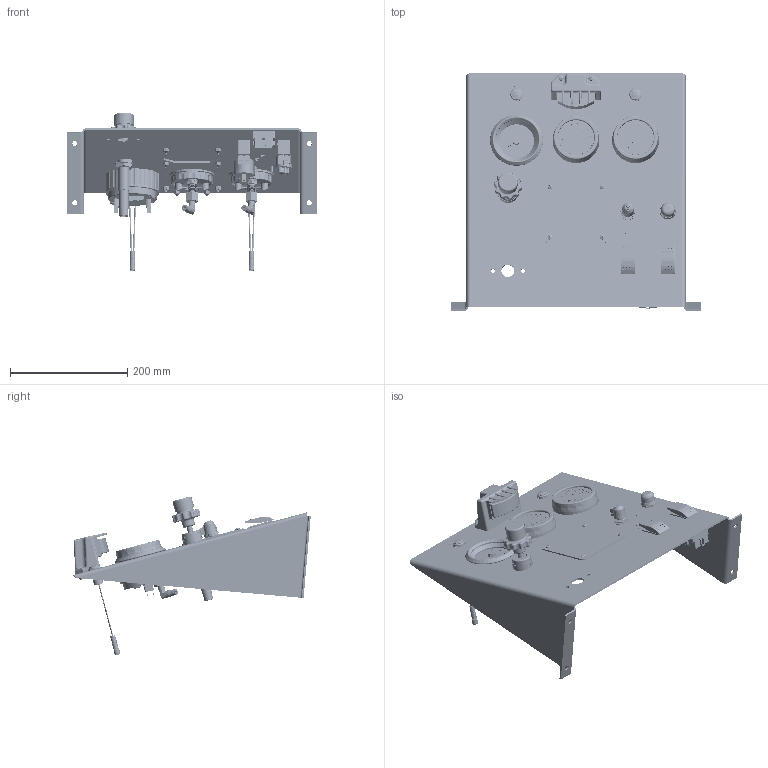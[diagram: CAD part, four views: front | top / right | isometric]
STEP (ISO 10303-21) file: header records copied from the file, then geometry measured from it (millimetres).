
FILE_DESCRIPTION (( 'STEP AP214' ), '1' );
FILE_NAME ('HPX-KBD PPK PANEL ASSEMBLY.STEP', '2017-10-30T11:55:59', ( '' ), ( '' ), 'SwSTEP 2.0', 'SolidWorks 2016', '' );
FILE_SCHEMA (( 'AUTOMOTIVE_DESIGN' ));
Length unit declared in the file: millimetre
Products named in the file (1): HPX-KBD PPK PANEL ASSEMBLY
Bounding box: 425.45 x 405.54 x 271.43 mm (x, y, z)
Surface area: 625725.1 mm2 (no closed solid volume)
Topology: 0 solids, 237 shells, 2915 faces, 12088 edges, 9016 vertices
Faces by surface type: plane 1110, cylinder 900, torus 401, cone 227, bspline 194, sphere 83
Entity records: 216829 total; most frequent: CARTESIAN_POINT 93212, DIRECTION 17446, ORIENTED_EDGE 17162, EDGE_CURVE 12033, VERTEX_POINT 9016, AXIS2_PLACEMENT_3D 6056, VECTOR 5334, LINE 5334
